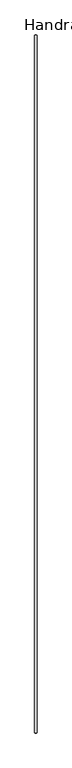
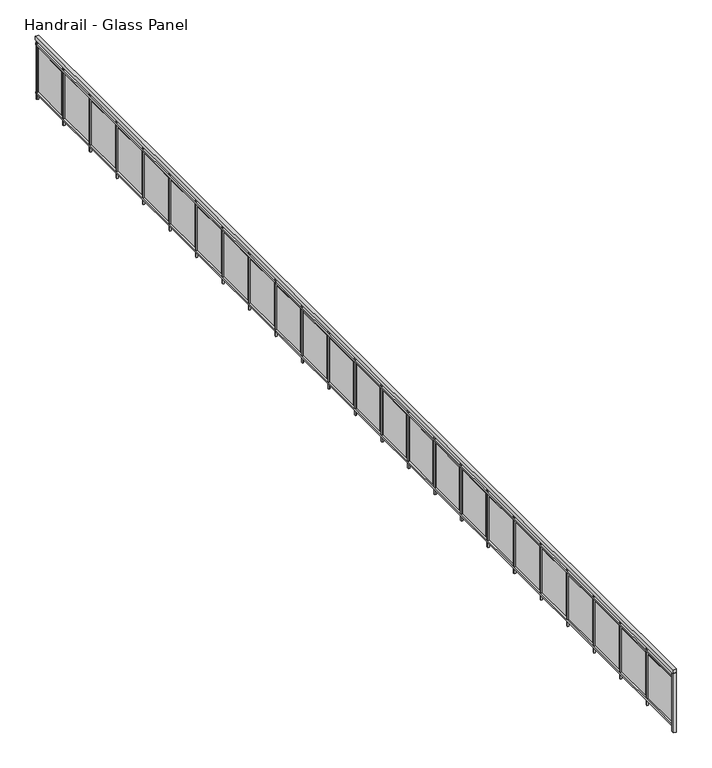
"""IFC4 building model written with IfcOpenShell, lengths in millimetres: railing geometry, Handrail - Glass Panel."""

from ifc_helpers import new_model, si_unit, point, frame, frame_2d, origin, place, context, project, spatial, polyline, circle_curve, trimmed, segment, composite_curve, outline, extrude, source, transform, mapped, element, save


def handrail_glass_panel_25425764(model_context):
    return source(origin(), model_context, "Body", "SweptSolid", [
        extrude(outline(polyline([(30113.2134101, -9922.6148653), (30062.4134101, -9922.6148653), (30062.4134101, 5347.3851347), (30113.2134101, 5347.3851347), (30113.2134101, -9922.6148653)])), frame((0.0, 0.0, 8963.6), z_axis=(0.0, 0.0, 1.0), x_axis=(1.0, 0.0, 0.0)), (0.0, 0.0, 1.0), 50.8),
        extrude(outline(polyline([(30100.5134101, -9922.6148653), (30075.1134101, -9922.6148653), (30075.1134101, 5347.3851347), (30100.5134101, 5347.3851347), (30100.5134101, -9922.6148653)])), frame((0.0, 0.0, 8887.4), z_axis=(0.0, 0.0, 1.0), x_axis=(1.0, 0.0, 0.0)), (0.0, 0.0, 1.0), 25.4),
        extrude(outline(polyline([(30100.5134101, -9922.6148653), (30075.1134101, -9922.6148653), (30075.1134101, 5347.3851347), (30100.5134101, 5347.3851347), (30100.5134101, -9922.6148653)])), frame((0.0, 0.0, 8176.2), z_axis=(0.0, 0.0, 1.0), x_axis=(1.0, 0.0, 0.0)), (0.0, 0.0, 1.0), 25.4),
        extrude(outline(polyline([(30097.3384101, 5322.8601347), (30078.2884101, 5322.8601347), (30078.2884101, 5341.9101347), (30097.3384101, 5341.9101347), (30097.3384101, 5322.8601347)])), frame((0.0, 0.0, 8100.0), z_axis=(0.0, 0.0, 1.0), x_axis=(1.0, 0.0, 0.0)), (0.0, 0.0, 1.0), 863.6),
        extrude(outline(polyline([(30081.4634101, 4735.4851347), (30081.4634101, 5294.2851347), (30087.8134101, 5294.2851347), (30087.8134101, 4735.4851347), (30081.4634101, 4735.4851347)])), frame((0.0, 0.0, 8227.0), z_axis=(0.0, 0.0, 1.0), x_axis=(1.0, 0.0, 0.0)), (0.0, 0.0, 1.0), 635.0),
        extrude(outline(polyline([(30097.3384101, 4687.8601347), (30078.2884101, 4687.8601347), (30078.2884101, 4706.9101347), (30097.3384101, 4706.9101347), (30097.3384101, 4687.8601347)])), frame((0.0, 0.0, 8100.0), z_axis=(0.0, 0.0, 1.0), x_axis=(1.0, 0.0, 0.0)), (0.0, 0.0, 1.0), 863.6),
        extrude(outline(polyline([(30081.4634101, 4100.4851347), (30081.4634101, 4659.2851347), (30087.8134101, 4659.2851347), (30087.8134101, 4100.4851347), (30081.4634101, 4100.4851347)])), frame((0.0, 0.0, 8227.0), z_axis=(0.0, 0.0, 1.0), x_axis=(1.0, 0.0, 0.0)), (0.0, 0.0, 1.0), 635.0),
        extrude(outline(polyline([(30097.3384101, 4052.8601347), (30078.2884101, 4052.8601347), (30078.2884101, 4071.9101347), (30097.3384101, 4071.9101347), (30097.3384101, 4052.8601347)])), frame((0.0, 0.0, 8100.0), z_axis=(0.0, 0.0, 1.0), x_axis=(1.0, 0.0, 0.0)), (0.0, 0.0, 1.0), 863.6),
        extrude(outline(polyline([(30081.4634101, 3465.4851347), (30081.4634101, 4024.2851347), (30087.8134101, 4024.2851347), (30087.8134101, 3465.4851347), (30081.4634101, 3465.4851347)])), frame((0.0, 0.0, 8227.0), z_axis=(0.0, 0.0, 1.0), x_axis=(1.0, 0.0, 0.0)), (0.0, 0.0, 1.0), 635.0),
        extrude(outline(polyline([(30097.3384101, 3417.8601347), (30078.2884101, 3417.8601347), (30078.2884101, 3436.9101347), (30097.3384101, 3436.9101347), (30097.3384101, 3417.8601347)])), frame((0.0, 0.0, 8100.0), z_axis=(0.0, 0.0, 1.0), x_axis=(1.0, 0.0, 0.0)), (0.0, 0.0, 1.0), 863.6),
        extrude(outline(polyline([(30081.4634101, 2830.4851347), (30081.4634101, 3389.2851347), (30087.8134101, 3389.2851347), (30087.8134101, 2830.4851347), (30081.4634101, 2830.4851347)])), frame((0.0, 0.0, 8227.0), z_axis=(0.0, 0.0, 1.0), x_axis=(1.0, 0.0, 0.0)), (0.0, 0.0, 1.0), 635.0),
        extrude(outline(polyline([(30097.3384101, 2782.8601347), (30078.2884101, 2782.8601347), (30078.2884101, 2801.9101347), (30097.3384101, 2801.9101347), (30097.3384101, 2782.8601347)])), frame((0.0, 0.0, 8100.0), z_axis=(0.0, 0.0, 1.0), x_axis=(1.0, 0.0, 0.0)), (0.0, 0.0, 1.0), 863.6),
        extrude(outline(polyline([(30081.4634101, 2195.4851347), (30081.4634101, 2754.2851347), (30087.8134101, 2754.2851347), (30087.8134101, 2195.4851347), (30081.4634101, 2195.4851347)])), frame((0.0, 0.0, 8227.0), z_axis=(0.0, 0.0, 1.0), x_axis=(1.0, 0.0, 0.0)), (0.0, 0.0, 1.0), 635.0),
        extrude(outline(polyline([(30097.3384101, 2147.8601347), (30078.2884101, 2147.8601347), (30078.2884101, 2166.9101347), (30097.3384101, 2166.9101347), (30097.3384101, 2147.8601347)])), frame((0.0, 0.0, 8100.0), z_axis=(0.0, 0.0, 1.0), x_axis=(1.0, 0.0, 0.0)), (0.0, 0.0, 1.0), 863.6),
        extrude(outline(polyline([(30081.4634101, 1560.4851347), (30081.4634101, 2119.2851347), (30087.8134101, 2119.2851347), (30087.8134101, 1560.4851347), (30081.4634101, 1560.4851347)])), frame((0.0, 0.0, 8227.0), z_axis=(0.0, 0.0, 1.0), x_axis=(1.0, 0.0, 0.0)), (0.0, 0.0, 1.0), 635.0),
        extrude(outline(polyline([(30097.3384101, 1512.8601347), (30078.2884101, 1512.8601347), (30078.2884101, 1531.9101347), (30097.3384101, 1531.9101347), (30097.3384101, 1512.8601347)])), frame((0.0, 0.0, 8100.0), z_axis=(0.0, 0.0, 1.0), x_axis=(1.0, 0.0, 0.0)), (0.0, 0.0, 1.0), 863.6),
        extrude(outline(polyline([(30081.4634101, 925.4851347), (30081.4634101, 1484.2851347), (30087.8134101, 1484.2851347), (30087.8134101, 925.4851347), (30081.4634101, 925.4851347)])), frame((0.0, 0.0, 8227.0), z_axis=(0.0, 0.0, 1.0), x_axis=(1.0, 0.0, 0.0)), (0.0, 0.0, 1.0), 635.0),
        extrude(outline(polyline([(30097.3384101, 877.8601347), (30078.2884101, 877.8601347), (30078.2884101, 896.9101347), (30097.3384101, 896.9101347), (30097.3384101, 877.8601347)])), frame((0.0, 0.0, 8100.0), z_axis=(0.0, 0.0, 1.0), x_axis=(1.0, 0.0, 0.0)), (0.0, 0.0, 1.0), 863.6),
        extrude(outline(polyline([(30081.4634101, 290.4851347), (30081.4634101, 849.2851347), (30087.8134101, 849.2851347), (30087.8134101, 290.4851347), (30081.4634101, 290.4851347)])), frame((0.0, 0.0, 8227.0), z_axis=(0.0, 0.0, 1.0), x_axis=(1.0, 0.0, 0.0)), (0.0, 0.0, 1.0), 635.0),
        extrude(outline(polyline([(30097.3384101, 242.8601347), (30078.2884101, 242.8601347), (30078.2884101, 261.9101347), (30097.3384101, 261.9101347), (30097.3384101, 242.8601347)])), frame((0.0, 0.0, 8100.0), z_axis=(0.0, 0.0, 1.0), x_axis=(1.0, 0.0, 0.0)), (0.0, 0.0, 1.0), 863.6),
        extrude(outline(polyline([(30081.4634101, -344.5148653), (30081.4634101, 214.2851347), (30087.8134101, 214.2851347), (30087.8134101, -344.5148653), (30081.4634101, -344.5148653)])), frame((0.0, 0.0, 8227.0), z_axis=(0.0, 0.0, 1.0), x_axis=(1.0, 0.0, 0.0)), (0.0, 0.0, 1.0), 635.0),
        extrude(outline(polyline([(30097.3384101, -392.1398653), (30078.2884101, -392.1398653), (30078.2884101, -373.0898653), (30097.3384101, -373.0898653), (30097.3384101, -392.1398653)])), frame((0.0, 0.0, 8100.0), z_axis=(0.0, 0.0, 1.0), x_axis=(1.0, 0.0, 0.0)), (0.0, 0.0, 1.0), 863.6),
        extrude(outline(polyline([(30081.4634101, -979.5148653), (30081.4634101, -420.7148653), (30087.8134101, -420.7148653), (30087.8134101, -979.5148653), (30081.4634101, -979.5148653)])), frame((0.0, 0.0, 8227.0), z_axis=(0.0, 0.0, 1.0), x_axis=(1.0, 0.0, 0.0)), (0.0, 0.0, 1.0), 635.0),
        extrude(outline(polyline([(30097.3384101, -1027.1398653), (30078.2884101, -1027.1398653), (30078.2884101, -1008.0898653), (30097.3384101, -1008.0898653), (30097.3384101, -1027.1398653)])), frame((0.0, 0.0, 8100.0), z_axis=(0.0, 0.0, 1.0), x_axis=(1.0, 0.0, 0.0)), (0.0, 0.0, 1.0), 863.6),
        extrude(outline(polyline([(30081.4634101, -1614.5148653), (30081.4634101, -1055.7148653), (30087.8134101, -1055.7148653), (30087.8134101, -1614.5148653), (30081.4634101, -1614.5148653)])), frame((0.0, 0.0, 8227.0), z_axis=(0.0, 0.0, 1.0), x_axis=(1.0, 0.0, 0.0)), (0.0, 0.0, 1.0), 635.0),
        extrude(outline(polyline([(30097.3384101, -1662.1398653), (30078.2884101, -1662.1398653), (30078.2884101, -1643.0898653), (30097.3384101, -1643.0898653), (30097.3384101, -1662.1398653)])), frame((0.0, 0.0, 8100.0), z_axis=(0.0, 0.0, 1.0), x_axis=(1.0, 0.0, 0.0)), (0.0, 0.0, 1.0), 863.6),
        extrude(outline(polyline([(30081.4634101, -2249.5148653), (30081.4634101, -1690.7148653), (30087.8134101, -1690.7148653), (30087.8134101, -2249.5148653), (30081.4634101, -2249.5148653)])), frame((0.0, 0.0, 8227.0), z_axis=(0.0, 0.0, 1.0), x_axis=(1.0, 0.0, 0.0)), (0.0, 0.0, 1.0), 635.0),
        extrude(outline(polyline([(30097.3384101, -2297.1398653), (30078.2884101, -2297.1398653), (30078.2884101, -2278.0898653), (30097.3384101, -2278.0898653), (30097.3384101, -2297.1398653)])), frame((0.0, 0.0, 8100.0), z_axis=(0.0, 0.0, 1.0), x_axis=(1.0, 0.0, 0.0)), (0.0, 0.0, 1.0), 863.6),
        extrude(outline(polyline([(30081.4634101, -2884.5148653), (30081.4634101, -2325.7148653), (30087.8134101, -2325.7148653), (30087.8134101, -2884.5148653), (30081.4634101, -2884.5148653)])), frame((0.0, 0.0, 8227.0), z_axis=(0.0, 0.0, 1.0), x_axis=(1.0, 0.0, 0.0)), (0.0, 0.0, 1.0), 635.0),
        extrude(outline(polyline([(30097.3384101, -2932.1398653), (30078.2884101, -2932.1398653), (30078.2884101, -2913.0898653), (30097.3384101, -2913.0898653), (30097.3384101, -2932.1398653)])), frame((0.0, 0.0, 8100.0), z_axis=(0.0, 0.0, 1.0), x_axis=(1.0, 0.0, 0.0)), (0.0, 0.0, 1.0), 863.6),
        extrude(outline(polyline([(30081.4634101, -3519.5148653), (30081.4634101, -2960.7148653), (30087.8134101, -2960.7148653), (30087.8134101, -3519.5148653), (30081.4634101, -3519.5148653)])), frame((0.0, 0.0, 8227.0), z_axis=(0.0, 0.0, 1.0), x_axis=(1.0, 0.0, 0.0)), (0.0, 0.0, 1.0), 635.0),
        extrude(outline(polyline([(30097.3384101, -3567.1398653), (30078.2884101, -3567.1398653), (30078.2884101, -3548.0898653), (30097.3384101, -3548.0898653), (30097.3384101, -3567.1398653)])), frame((0.0, 0.0, 8100.0), z_axis=(0.0, 0.0, 1.0), x_axis=(1.0, 0.0, 0.0)), (0.0, 0.0, 1.0), 863.6),
        extrude(outline(polyline([(30081.4634101, -4154.5148653), (30081.4634101, -3595.7148653), (30087.8134101, -3595.7148653), (30087.8134101, -4154.5148653), (30081.4634101, -4154.5148653)])), frame((0.0, 0.0, 8227.0), z_axis=(0.0, 0.0, 1.0), x_axis=(1.0, 0.0, 0.0)), (0.0, 0.0, 1.0), 635.0),
        extrude(outline(polyline([(30097.3384101, -4202.1398653), (30078.2884101, -4202.1398653), (30078.2884101, -4183.0898653), (30097.3384101, -4183.0898653), (30097.3384101, -4202.1398653)])), frame((0.0, 0.0, 8100.0), z_axis=(0.0, 0.0, 1.0), x_axis=(1.0, 0.0, 0.0)), (0.0, 0.0, 1.0), 863.6),
        extrude(outline(polyline([(30081.4634101, -4789.5148653), (30081.4634101, -4230.7148653), (30087.8134101, -4230.7148653), (30087.8134101, -4789.5148653), (30081.4634101, -4789.5148653)])), frame((0.0, 0.0, 8227.0), z_axis=(0.0, 0.0, 1.0), x_axis=(1.0, 0.0, 0.0)), (0.0, 0.0, 1.0), 635.0),
        extrude(outline(polyline([(30097.3384101, -4837.1398653), (30078.2884101, -4837.1398653), (30078.2884101, -4818.0898653), (30097.3384101, -4818.0898653), (30097.3384101, -4837.1398653)])), frame((0.0, 0.0, 8100.0), z_axis=(0.0, 0.0, 1.0), x_axis=(1.0, 0.0, 0.0)), (0.0, 0.0, 1.0), 863.6),
        extrude(outline(polyline([(30081.4634101, -5424.5148653), (30081.4634101, -4865.7148653), (30087.8134101, -4865.7148653), (30087.8134101, -5424.5148653), (30081.4634101, -5424.5148653)])), frame((0.0, 0.0, 8227.0), z_axis=(0.0, 0.0, 1.0), x_axis=(1.0, 0.0, 0.0)), (0.0, 0.0, 1.0), 635.0),
        extrude(outline(polyline([(30097.3384101, -5472.1398653), (30078.2884101, -5472.1398653), (30078.2884101, -5453.0898653), (30097.3384101, -5453.0898653), (30097.3384101, -5472.1398653)])), frame((0.0, 0.0, 8100.0), z_axis=(0.0, 0.0, 1.0), x_axis=(1.0, 0.0, 0.0)), (0.0, 0.0, 1.0), 863.6),
        extrude(outline(polyline([(30081.4634101, -6059.5148653), (30081.4634101, -5500.7148653), (30087.8134101, -5500.7148653), (30087.8134101, -6059.5148653), (30081.4634101, -6059.5148653)])), frame((0.0, 0.0, 8227.0), z_axis=(0.0, 0.0, 1.0), x_axis=(1.0, 0.0, 0.0)), (0.0, 0.0, 1.0), 635.0),
        extrude(outline(polyline([(30097.3384101, -6107.1398653), (30078.2884101, -6107.1398653), (30078.2884101, -6088.0898653), (30097.3384101, -6088.0898653), (30097.3384101, -6107.1398653)])), frame((0.0, 0.0, 8100.0), z_axis=(0.0, 0.0, 1.0), x_axis=(1.0, 0.0, 0.0)), (0.0, 0.0, 1.0), 863.6),
        extrude(outline(polyline([(30081.4634101, -6694.5148653), (30081.4634101, -6135.7148653), (30087.8134101, -6135.7148653), (30087.8134101, -6694.5148653), (30081.4634101, -6694.5148653)])), frame((0.0, 0.0, 8227.0), z_axis=(0.0, 0.0, 1.0), x_axis=(1.0, 0.0, 0.0)), (0.0, 0.0, 1.0), 635.0),
        extrude(outline(polyline([(30097.3384101, -6742.1398653), (30078.2884101, -6742.1398653), (30078.2884101, -6723.0898653), (30097.3384101, -6723.0898653), (30097.3384101, -6742.1398653)])), frame((0.0, 0.0, 8100.0), z_axis=(0.0, 0.0, 1.0), x_axis=(1.0, 0.0, 0.0)), (0.0, 0.0, 1.0), 863.6),
        extrude(outline(polyline([(30081.4634101, -7329.5148653), (30081.4634101, -6770.7148653), (30087.8134101, -6770.7148653), (30087.8134101, -7329.5148653), (30081.4634101, -7329.5148653)])), frame((0.0, 0.0, 8227.0), z_axis=(0.0, 0.0, 1.0), x_axis=(1.0, 0.0, 0.0)), (0.0, 0.0, 1.0), 635.0),
        extrude(outline(polyline([(30097.3384101, -7377.1398653), (30078.2884101, -7377.1398653), (30078.2884101, -7358.0898653), (30097.3384101, -7358.0898653), (30097.3384101, -7377.1398653)])), frame((0.0, 0.0, 8100.0), z_axis=(0.0, 0.0, 1.0), x_axis=(1.0, 0.0, 0.0)), (0.0, 0.0, 1.0), 863.6),
        extrude(outline(polyline([(30081.4634101, -7964.5148653), (30081.4634101, -7405.7148653), (30087.8134101, -7405.7148653), (30087.8134101, -7964.5148653), (30081.4634101, -7964.5148653)])), frame((0.0, 0.0, 8227.0), z_axis=(0.0, 0.0, 1.0), x_axis=(1.0, 0.0, 0.0)), (0.0, 0.0, 1.0), 635.0),
        extrude(outline(polyline([(30097.3384101, -8012.1398653), (30078.2884101, -8012.1398653), (30078.2884101, -7993.0898653), (30097.3384101, -7993.0898653), (30097.3384101, -8012.1398653)])), frame((0.0, 0.0, 8100.0), z_axis=(0.0, 0.0, 1.0), x_axis=(1.0, 0.0, 0.0)), (0.0, 0.0, 1.0), 863.6),
        extrude(outline(polyline([(30081.4634101, -8599.5148653), (30081.4634101, -8040.7148653), (30087.8134101, -8040.7148653), (30087.8134101, -8599.5148653), (30081.4634101, -8599.5148653)])), frame((0.0, 0.0, 8227.0), z_axis=(0.0, 0.0, 1.0), x_axis=(1.0, 0.0, 0.0)), (0.0, 0.0, 1.0), 635.0),
        extrude(outline(polyline([(30097.3384101, -8647.1398653), (30078.2884101, -8647.1398653), (30078.2884101, -8628.0898653), (30097.3384101, -8628.0898653), (30097.3384101, -8647.1398653)])), frame((0.0, 0.0, 8100.0), z_axis=(0.0, 0.0, 1.0), x_axis=(1.0, 0.0, 0.0)), (0.0, 0.0, 1.0), 863.6),
        extrude(outline(polyline([(30081.4634101, -9234.5148653), (30081.4634101, -8675.7148653), (30087.8134101, -8675.7148653), (30087.8134101, -9234.5148653), (30081.4634101, -9234.5148653)])), frame((0.0, 0.0, 8227.0), z_axis=(0.0, 0.0, 1.0), x_axis=(1.0, 0.0, 0.0)), (0.0, 0.0, 1.0), 635.0),
        extrude(outline(polyline([(30097.3384101, -9282.1398653), (30078.2884101, -9282.1398653), (30078.2884101, -9263.0898653), (30097.3384101, -9263.0898653), (30097.3384101, -9282.1398653)])), frame((0.0, 0.0, 8100.0), z_axis=(0.0, 0.0, 1.0), x_axis=(1.0, 0.0, 0.0)), (0.0, 0.0, 1.0), 863.6),
        extrude(outline(polyline([(30081.4634101, -9869.5148653), (30081.4634101, -9310.7148653), (30087.8134101, -9310.7148653), (30087.8134101, -9869.5148653), (30081.4634101, -9869.5148653)])), frame((0.0, 0.0, 8227.0), z_axis=(0.0, 0.0, 1.0), x_axis=(1.0, 0.0, 0.0)), (0.0, 0.0, 1.0), 635.0),
        extrude(outline(polyline([(30097.3384101, -9917.1398653), (30078.2884101, -9917.1398653), (30078.2884101, -9898.0898653), (30097.3384101, -9898.0898653), (30097.3384101, -9917.1398653)])), frame((0.0, 0.0, 8100.0), z_axis=(0.0, 0.0, 1.0), x_axis=(1.0, 0.0, 0.0)), (0.0, 0.0, 1.0), 863.6),
        extrude(outline(composite_curve([segment(trimmed(circle_curve(frame_2d((30087.8134101, 5337.8601347)), 12.7), [point((30075.1134101, 5337.8601347))], [point((30100.5134101, 5337.8601347))], False, "CARTESIAN"), True, "CONTINUOUS"), segment(trimmed(circle_curve(frame_2d((30087.8134101, 5337.8601347)), 12.7), [point((30100.5134101, 5337.8601347))], [point((30075.1134101, 5337.8601347))], False, "CARTESIAN"), True, "CONTINUOUS")], self_intersect=False)), frame((0.0, 0.0, 8100.0), z_axis=(0.0, 0.0, 1.0), x_axis=(1.0, 0.0, 0.0)), (0.0, 0.0, 1.0), 863.6),
        extrude(outline(polyline([(30106.8634101, -9932.1398653), (30068.7634101, -9932.1398653), (30068.7634101, -9894.0398653), (30106.8634101, -9894.0398653), (30106.8634101, -9932.1398653)])), frame((0.0, 0.0, 8100.0), z_axis=(0.0, 0.0, 1.0), x_axis=(1.0, 0.0, 0.0)), (0.0, 0.0, 1.0), 863.6),
    ])


if __name__ == "__main__":
    model = new_model("IFC4")
    model_context = context("Model", 3, world=origin())
    ifc_project = project(units=[si_unit("LENGTHUNIT", "METRE", prefix="MILLI")], contexts=[model_context])
    site = spatial("IfcSite", under=ifc_project)
    building = spatial("IfcBuilding", under=site)
    placement = place(None, origin())
    handrail_glass_panel_shape = handrail_glass_panel_25425764(model_context)
    element("IfcRailing", 1, ObjectType="Handrail - Glass Panel", at=placement, inside=building, context=model_context, shape_type="MappedRepresentation", body=[
        mapped(handrail_glass_panel_shape, transform((0.0, 0.0, 0.0), x_axis=(1.0, 0.0, 0.0), y_axis=(0.0, 1.0, 0.0), z_axis=(0.0, 0.0, 1.0))),
    ])
    save(model, "model.ifc")
